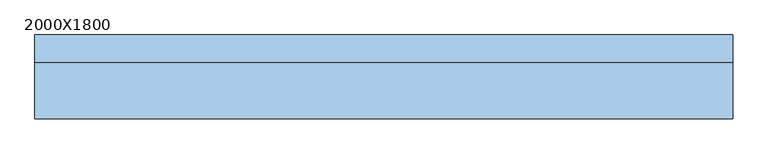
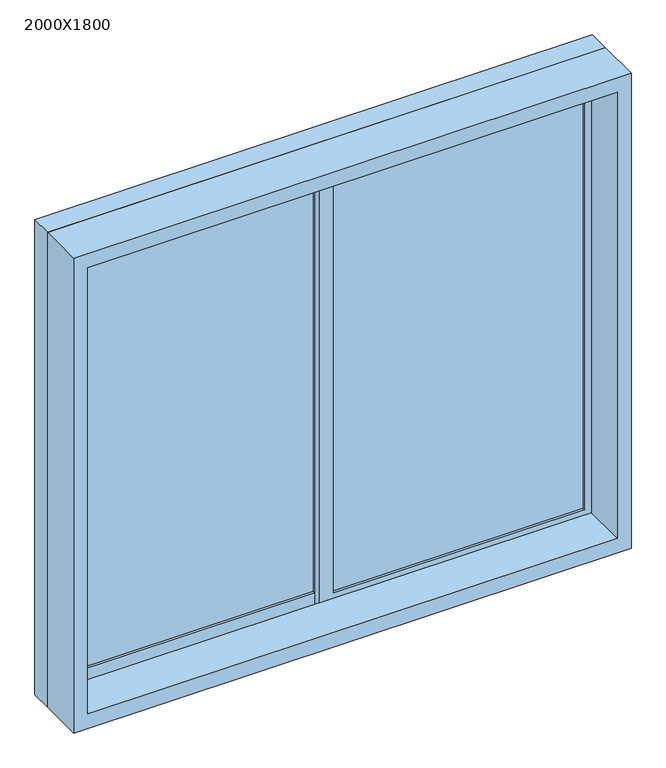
"""IFC4 building model written with IfcOpenShell, lengths in millimetres: window geometry, 推拉窗6 : 2000X1800."""

import ifcopenshell
import ifcopenshell.guid

model = None  # the IFC model being written
_history = None  # IfcOwnerHistory: only IFC2X3 demands one
_inside = {}  # id of a spatial element -> (the spatial element, [elements in it])
_under = {}  # id of a project, library or spatial element -> (it, [spatial elements below it])
_declared = {}  # id of a project -> (the project, [libraries it declares])
_typed = {}  # id of a type object -> (the type object, [elements of that type])
_made_of = {}  # id of a material, layer set ... -> (it, [elements and type objects made of it])


def new_model(schema):
    """Start an empty IFC model of exactly this schema.

    Asked for "IFC4X3", IfcOpenShell would pick the latest addendum, in which some entities
    have other attributes; the version numbers below select the first issue.
    IFC2X3 requires an IfcOwnerHistory on every rooted entity: one is made here for all.
    """
    global model, _history
    if schema == "IFC4X3":
        model = ifcopenshell.file(schema_version=(4, 3, 0, 0))
    else:
        model = ifcopenshell.file(schema=schema)
    _inside.clear()
    _under.clear()
    _declared.clear()
    _typed.clear()
    _made_of.clear()
    _history = None
    if model.schema == "IFC2X3":
        org = make("IfcOrganization", Name="unknown")
        user = make(
            "IfcPersonAndOrganization",
            ThePerson=make("IfcPerson", FamilyName="unknown"),
            TheOrganization=org,
        )
        app = make(
            "IfcApplication",
            ApplicationDeveloper=org,
            Version="unknown",
            ApplicationFullName="unknown",
            ApplicationIdentifier="unknown",
        )
        _history = make(
            "IfcOwnerHistory",
            OwningUser=user,
            OwningApplication=app,
            ChangeAction="ADDED",
            CreationDate=0,
        )
    return model


def make(cls, **values):
    """One entity of the class cls with the attributes given. An attribute that is None is left unset."""
    return model.create_entity(
        cls, **{name: value for name, value in values.items() if value is not None}
    )


def rooted(cls, **values):
    """An entity with a GlobalId (a new one), such as an element, a storey or a relation."""
    return make(cls, GlobalId=ifcopenshell.guid.new(), OwnerHistory=_history, **values)


def si_unit(unit_type, name, prefix=None):
    """IfcSIUnit, for example si_unit("LENGTHUNIT", "METRE", prefix="MILLI")."""
    return make("IfcSIUnit", UnitType=unit_type, Prefix=prefix, Name=name)


def assignment(units):
    """IfcUnitAssignment: the units of a project."""
    return None if units is None else make("IfcUnitAssignment", Units=units)


def point(xyz):
    """IfcCartesianPoint."""
    return None if xyz is None else make("IfcCartesianPoint", Coordinates=xyz)


def direction(xyz):
    """IfcDirection."""
    return None if xyz is None else make("IfcDirection", DirectionRatios=xyz)


def frame(location, z_axis=None, x_axis=None):
    """IfcAxis2Placement3D, a coordinate frame: its origin and axes. An axis left out is left unset."""
    return make(
        "IfcAxis2Placement3D",
        Location=point(location),
        Axis=direction(z_axis),
        RefDirection=direction(x_axis),
    )


def origin():
    """The frame at (0, 0, 0) with its axes left unset."""
    return frame((0.0, 0.0, 0.0))


def place(relative_to, where):
    """IfcLocalPlacement: puts the frame where relative to a parent placement (None: the world)."""
    return make(
        "IfcLocalPlacement", PlacementRelTo=relative_to, RelativePlacement=where
    )


def context(
    kind, dimensions, precision=None, world=None, true_north=None, identifier=None
):
    """IfcGeometricRepresentationContext, for example the 3D "Model" context."""
    return make(
        "IfcGeometricRepresentationContext",
        ContextIdentifier=identifier,
        ContextType=kind,
        CoordinateSpaceDimension=dimensions,
        Precision=precision,
        WorldCoordinateSystem=world,
        TrueNorth=true_north,
    )


def project(units=None, contexts=None):
    """IfcProject with its units and contexts."""
    return rooted(
        "IfcProject",
        Name="project",
        RepresentationContexts=contexts,
        UnitsInContext=assignment(units),
    )


def spatial(cls, under=None, at=None, **own):
    """A site, building, storey or space (cls), placed at a placement, below another one or the project."""
    s = rooted(cls, ObjectPlacement=at, **own)
    if under is not None:
        _under.setdefault(under.id(), (under, []))[1].append(s)
    return s


def polyline(points):
    """IfcPolyline through the points."""
    return make("IfcPolyline", Points=[point(p) for p in points])


def outline(outer, holes=None, kind="AREA"):
    """IfcArbitraryClosedProfileDef: a profile drawn as a closed curve; with holes, ...WithVoids."""
    if holes is None:
        return make("IfcArbitraryClosedProfileDef", ProfileType=kind, OuterCurve=outer)
    return make(
        "IfcArbitraryProfileDefWithVoids",
        ProfileType=kind,
        OuterCurve=outer,
        InnerCurves=holes,
    )


def extrude(swept, where, along, depth):
    """IfcExtrudedAreaSolid: the profile swept, set in the frame where, extruded along a direction by depth."""
    return make(
        "IfcExtrudedAreaSolid",
        SweptArea=swept,
        Position=where,
        ExtrudedDirection=direction(along),
        Depth=depth,
    )


def shape(context_of_items, identifier, shape_type, items):
    """IfcShapeRepresentation: the items that make up one representation, for example the "Body"."""
    return make(
        "IfcShapeRepresentation",
        ContextOfItems=context_of_items,
        RepresentationIdentifier=identifier,
        RepresentationType=shape_type,
        Items=items,
    )


def source(mapping_origin, context_of_items, identifier, shape_type, items):
    """IfcRepresentationMap: a shape defined once, which mapped items show again and again."""
    return make(
        "IfcRepresentationMap",
        MappingOrigin=mapping_origin,
        MappedRepresentation=shape(context_of_items, identifier, shape_type, items),
    )


def transform(
    local_origin,
    x_axis=None,
    y_axis=None,
    z_axis=None,
    scale=None,
    scale2=None,
    scale3=None,
    uniform=True,
):
    """IfcCartesianTransformationOperator3D, or its non-uniform kind. x_axis, y_axis, z_axis: its Axis1, 2, 3."""
    if uniform:
        return make(
            "IfcCartesianTransformationOperator3D",
            Axis1=direction(x_axis),
            Axis2=direction(y_axis),
            LocalOrigin=point(local_origin),
            Scale=scale,
            Axis3=direction(z_axis),
        )
    return make(
        "IfcCartesianTransformationOperator3DnonUniform",
        Axis1=direction(x_axis),
        Axis2=direction(y_axis),
        LocalOrigin=point(local_origin),
        Scale=scale,
        Axis3=direction(z_axis),
        Scale2=scale2,
        Scale3=scale3,
    )


def mapped(mapping_source, mapping_target):
    """IfcMappedItem: shows the shape of a source again, moved by a transform."""
    return make(
        "IfcMappedItem", MappingSource=mapping_source, MappingTarget=mapping_target
    )


def made_of(thing, what):
    """Note that an element or type object is made of a material, layer set ...; save() writes the relation."""
    if what is not None:
        _made_of.setdefault(what.id(), (what, []))[1].append(thing)
    return thing


def element(
    cls,
    number,
    at=None,
    inside=None,
    cuts=None,
    type_object=None,
    material=None,
    context=None,
    identifier="Body",
    shape_type=None,
    held_by="IfcProductDefinitionShape",
    body=None,
    shapes=None,
    **own,
):
    """One element of the class cls, such as IfcWall. Its Tag is "e" and its number.

    at: its placement. inside: the storey or other place that contains it. cuts: it is an
    opening in that element (IfcRelVoidsElement). A single representation is given by context,
    identifier, shape_type and body (its items); several are given by shapes. held_by: the class
    of the entity that holds the representations. save() writes the other relations.
    """
    e = rooted(cls, Tag="e%d" % number, ObjectPlacement=at, **own)
    if body is not None:
        shapes = [shape(context, identifier, shape_type, body)]
    if shapes is not None:
        e.Representation = make(held_by, Representations=shapes)
    if inside is not None:
        _inside.setdefault(inside.id(), (inside, []))[1].append(e)
    if cuts is not None:
        rooted(
            "IfcRelVoidsElement", RelatingBuildingElement=cuts, RelatedOpeningElement=e
        )
    if type_object is not None:
        _typed.setdefault(type_object.id(), (type_object, []))[1].append(e)
    return made_of(e, material)


def aggregate(whole, parts):
    """IfcRelAggregates: a whole, such as a stair, and the parts it consists of."""
    return rooted("IfcRelAggregates", RelatingObject=whole, RelatedObjects=parts)


def save(model, path):
    """Write the relations noted so far, then the file.

    IfcRelAggregates (storeys below a building ...), IfcRelContainedInSpatialStructure (elements
    in a storey), IfcRelDefinesByType, IfcRelAssociatesMaterial and IfcRelDeclares: one each for
    every whole, place, type object, material and project.
    """
    for whole, parts in _under.values():
        aggregate(whole, parts)
    for where, things in _inside.values():
        rooted(
            "IfcRelContainedInSpatialStructure",
            RelatedElements=things,
            RelatingStructure=where,
        )
    for kind, things in _typed.values():
        rooted("IfcRelDefinesByType", RelatedObjects=things, RelatingType=kind)
    for what, things in _made_of.values():
        rooted("IfcRelAssociatesMaterial", RelatedObjects=things, RelatingMaterial=what)
    for by, libraries in _declared.values():
        rooted("IfcRelDeclares", RelatingContext=by, RelatedDefinitions=libraries)
    model.write(path)


def window_2000x1800_beba2573(model_context):
    return source(origin(), model_context, "Body", "SweptSolid", [
        extrude(outline(polyline([(-915.475, 23.1265625), (-15.475, 23.1265625), (-15.475, 13.1265625), (-915.475, 13.1265625), (-915.475, 23.1265625)])), frame((0.0, 0.0, 675.0), z_axis=(0.0, 0.0, 1.0), x_axis=(1.0, 0.0, 0.0)), (0.0, 0.0, 1.0), 1650.0),
        extrude(outline(polyline([(34.525, -6.8734375), (934.525, -6.8734375), (934.525, -16.8734375), (34.525, -16.8734375), (34.525, -6.8734375)])), frame((0.0, 0.0, 675.0), z_axis=(0.0, 0.0, 1.0), x_axis=(1.0, 0.0, 0.0)), (0.0, 0.0, 1.0), 1650.0),
        extrude(outline(polyline([(2400.0, -990.475), (600.0, -990.475), (600.0, 1009.525), (2400.0, 1009.525), (2400.0, -990.475)]), holes=[polyline([(2345.0, 959.525), (655.0, 959.525), (655.0, -940.475), (2345.0, -940.475), (2345.0, 959.525)])]), frame((0.0, -186.8734375, 0.0), z_axis=(0.0, 1.0, 0.0), x_axis=(0.0, 0.0, 1.0)), (0.0, 0.0, 1.0), 160.0),
        extrude(outline(polyline([(625.0, 34.525), (2375.0, 34.525), (2375.0, -965.475), (625.0, -965.475), (625.0, 34.525)]), holes=[polyline([(675.0, -15.475), (675.0, -915.475), (2325.0, -915.475), (2325.0, -15.475), (675.0, -15.475)])]), frame((0.0, 3.1265625, 0.0), z_axis=(0.0, 1.0, 0.0), x_axis=(0.0, 0.0, 1.0)), (0.0, 0.0, 1.0), 30.0),
        extrude(outline(polyline([(2375.0, -15.475), (625.0, -15.475), (625.0, 984.525), (2375.0, 984.525), (2375.0, -15.475)]), holes=[polyline([(2325.0, 34.525), (2325.0, 934.525), (675.0, 934.525), (675.0, 34.525), (2325.0, 34.525)])]), frame((0.0, -26.8734375, 0.0), z_axis=(0.0, 1.0, 0.0), x_axis=(0.0, 0.0, 1.0)), (0.0, 0.0, 1.0), 30.0),
        extrude(outline(polyline([(2400.0, -990.475), (600.0, -990.475), (600.0, 1009.525), (2400.0, 1009.525), (2400.0, -990.475)]), holes=[polyline([(625.0, -965.475), (2375.0, -965.475), (2375.0, 984.525), (625.0, 984.525), (625.0, -965.475)])]), frame((0.0, -26.8734375, 0.0), z_axis=(0.0, 1.0, 0.0), x_axis=(0.0, 0.0, 1.0)), (0.0, 0.0, 1.0), 80.0),
    ])


if __name__ == "__main__":
    model = new_model("IFC4")
    model_context = context("Model", 3, world=origin())
    ifc_project = project(units=[si_unit("LENGTHUNIT", "METRE", prefix="MILLI")], contexts=[model_context])
    site = spatial("IfcSite", under=ifc_project)
    building = spatial("IfcBuilding", under=site)
    placement = place(None, origin())
    window_2000x1800_shape = window_2000x1800_beba2573(model_context)
    element("IfcWindow", 1, ObjectType="推拉窗6 : 2000X1800", at=placement, inside=building, context=model_context, shape_type="MappedRepresentation", body=[
        mapped(window_2000x1800_shape, transform((0.0, 0.0, 0.0), x_axis=(1.0, 0.0, 0.0), y_axis=(0.0, 1.0, 0.0), z_axis=(0.0, 0.0, 1.0))),
    ])
    save(model, "model.ifc")
